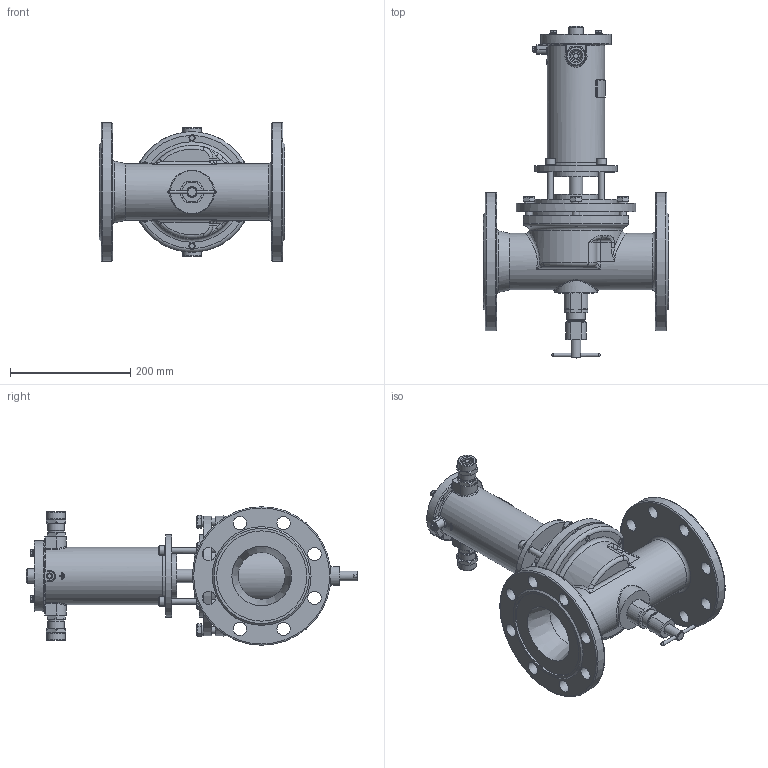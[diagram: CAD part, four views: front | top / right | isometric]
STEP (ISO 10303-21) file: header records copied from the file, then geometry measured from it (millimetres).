
FILE_DESCRIPTION(('STEP AP203'), '1');
FILE_NAME('ÑÅÍÑ DN100PN25-Â-ÍÎ-200Ñ-ÑÂ.stp', '2018-09-19T08:53:53', ('Îðëîâ Å.Â.'), ('ÎÎÎ ÍÏÏ Ñåíñîð'), 'ASCON STEP Converter 1.3', 'Kompas 3D', '');
FILE_SCHEMA(('CONFIG_CONTROL_DESIGN','SUPPORT_RESOURCE_SCHEMA'));
Length unit declared in the file: millimetre
Products named in the file (1): 94
Bounding box: 308 x 551.5 x 230 mm (x, y, z)
Volume: 3916661.4 mm3; surface area: 832392.9 mm2
Topology: 3 solids, 24 shells, 2158 faces, 5694 edges, 3674 vertices
Faces by surface type: cylinder 1052, plane 812, cone 164, bspline 56, torus 50, extrusion 16, sphere 8
Full cylindrical faces by diameter (mm): 3.5 x2, 4.134 x1, 4.917 x7, 5 x1, 6 x9, 6.5 x4, 8 x8, 8.2 x1, 8.376 x4, 9 x1, 10 x5, 10.106 x6, 11 x5, 12 x10, 13 x8, 16 x6, 17 x2, 18 x1, 18.632 x2, 20 x3, 22 x19, 22.376 x2, 23 x1, 23.5 x2, 24 x3, 24.5 x2, 26 x4, 26.376 x2, 27.8 x1, 28 x3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
Entity records: 85181 total; most frequent: CARTESIAN_POINT 30806, DIRECTION 11718, ORIENTED_EDGE 11312, EDGE_CURVE 5656, AXIS2_PLACEMENT_3D 4522, VERTEX_POINT 3674, VECTOR 2674, LINE 2658
